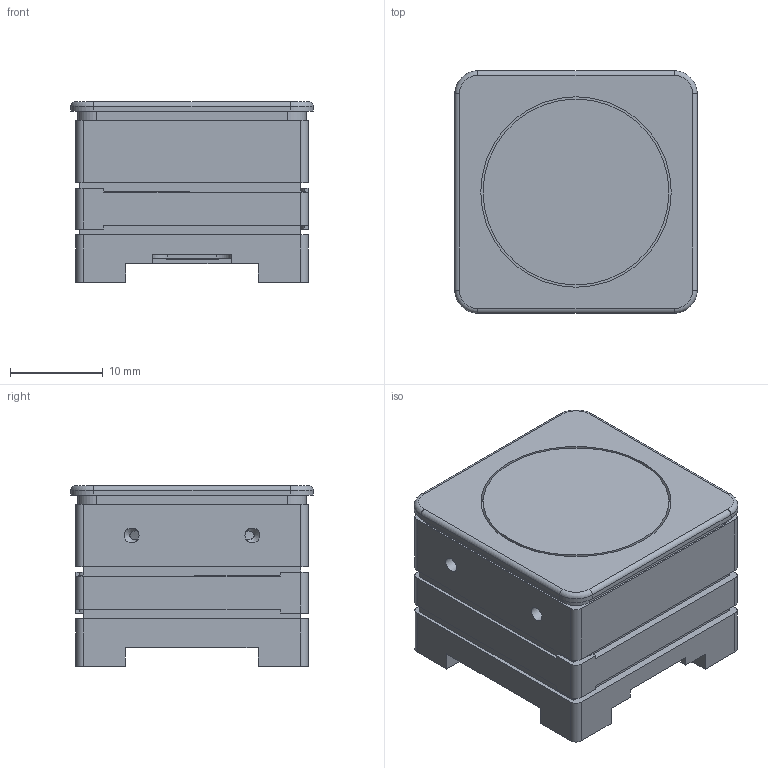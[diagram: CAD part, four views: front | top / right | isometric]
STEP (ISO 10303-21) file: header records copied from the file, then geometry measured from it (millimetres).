
FILE_DESCRIPTION(('STEP AP214'),'1');
FILE_NAME('Spectral Engines NM module.stp','2017-03-29T10:44:38',(' '),(' '),'Spatial InterOp 3D',' ',' ');
FILE_SCHEMA(('automotive_design'));
Length unit declared in the file: millimetre
Products named in the file (1): Spectral Engines NM module
Bounding box: 26.1 x 26.1 x 19.43 mm (x, y, z)
Volume: 10394 mm3; surface area: 4133 mm2
Topology: 1 solids, 5 shells, 773 faces, 2193 edges, 1439 vertices
Faces by surface type: plane 609, cylinder 152, cone 8, torus 4
Full cylindrical faces by diameter (mm): 1.6 x10, 2 x2, 4.4 x2, 20 x1, 20.5 x1
Entity records: 30919 total; most frequent: CARTESIAN_POINT 4467, ORIENTED_EDGE 4314, DIRECTION 4005, EDGE_CURVE 2157, LINE 1839, VECTOR 1839, VERTEX_POINT 1427, AXIS2_PLACEMENT_3D 1083
